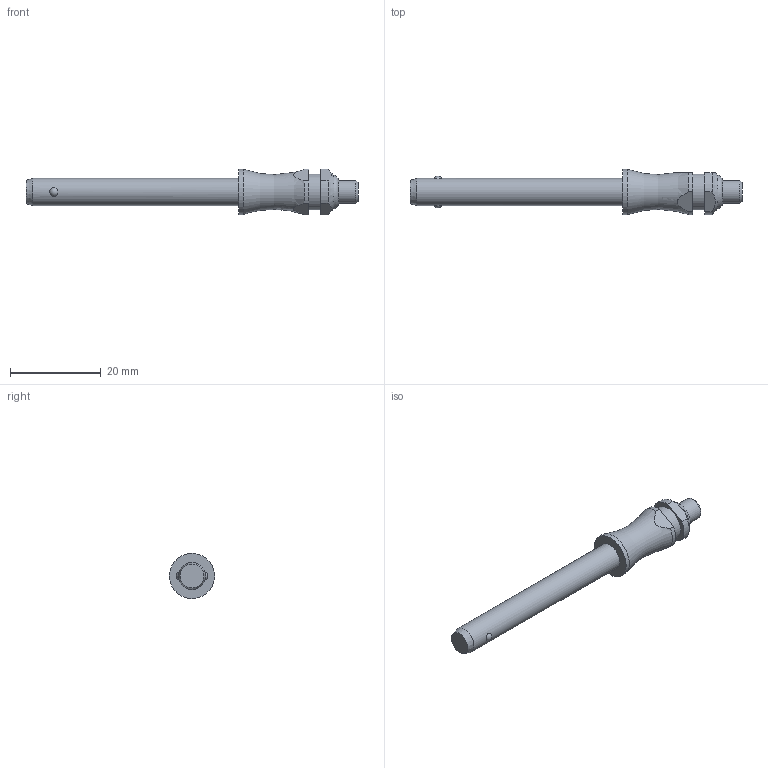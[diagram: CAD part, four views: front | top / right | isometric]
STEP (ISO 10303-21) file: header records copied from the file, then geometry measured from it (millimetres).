
FILE_DESCRIPTION( ( 'STEP AP203' ), '1' );
FILE_NAME( 'C:/Temp/Ganter_Step_05_03_2020/data/3_1/gn113_3/Stainless Steel-Ball lock pin GN 113.3-6-40 (deactivated).stp', '2020-03-12T08:18:18', ( 'License CC BY-ND 4.0' ), ( 'CADENAS' ), ' ', 'PARTsolutions', ' ' );
FILE_SCHEMA( ( 'CONFIG_CONTROL_DESIGN' ) );
Length unit declared in the file: millimetre
Products named in the file (1): _Stainless Steel-Ball lock pin GN 113.3-6-40 (deactivated)
Bounding box: 73.3 x 10 x 10 mm (x, y, z)
Volume: 2665.7 mm3; surface area: 1705.8 mm2
Topology: 1 solids, 1 shells, 29 faces, 61 edges, 40 vertices
Faces by surface type: plane 12, cylinder 10, cone 3, torus 2, sphere 2
Full cylindrical faces by diameter (mm): 5 x1, 6 x1, 7.9 x1, 10 x1
Entity records: 918 total; most frequent: CARTESIAN_POINT 288, DIRECTION 126, ORIENTED_EDGE 100, AXIS2_PLACEMENT_3D 54, EDGE_CURVE 50, EDGE_LOOP 44, VERTEX_POINT 38, FACE_OUTER_BOUND 35
